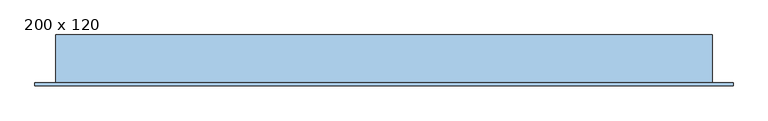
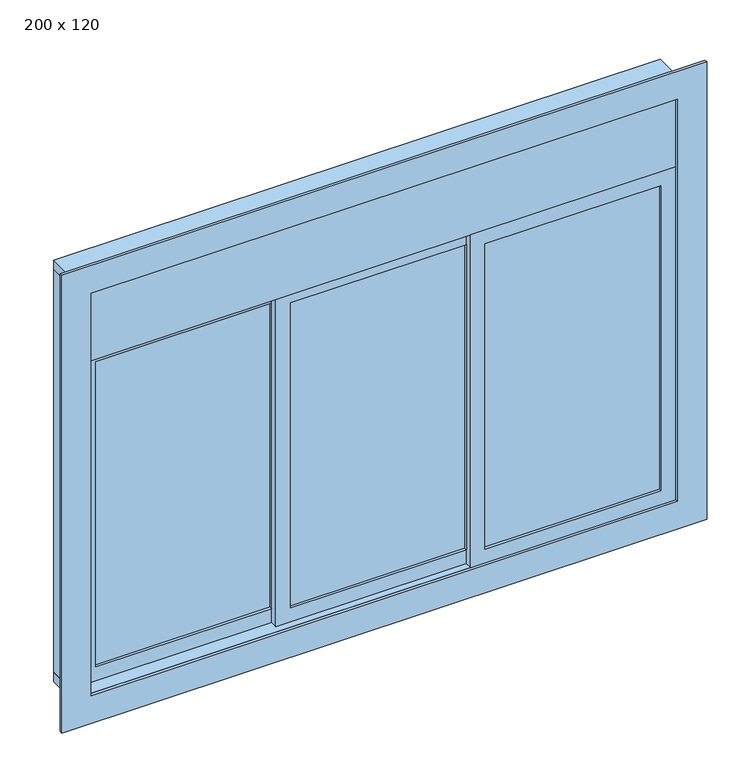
"""IFC4 building model written with IfcOpenShell, lengths in millimetres: window geometry, JANELA COM ESQUADRIA DE CORRER - 3 FOLHAS + PERSIANA INTEGRADA : 200 x 120."""

from ifc_helpers import new_model, si_unit, frame, origin, place, context, project, spatial, polyline, outline, extrude, source, transform, mapped, element, save


def window_200_x_120_acaa8d7a(model_context):
    return source(origin(), model_context, "Body", "SweptSolid", [
        extrude(outline(polyline([(394.4035509, -35.3758395), (394.4035509, -41.3758395), (-205.5964491, -41.3758395), (-205.5964491, -35.3758395), (394.4035509, -35.3758395)])), frame((0.0, 0.0, 1050.0), z_axis=(0.0, 0.0, 1.0), x_axis=(1.0, 0.0, 0.0)), (0.0, 0.0, 1.0), 1100.0),
        extrude(outline(polyline([(2200.0, 444.4035509), (2200.0, -255.5964491), (1000.0, -255.5964491), (1000.0, 444.4035509), (2200.0, 444.4035509)]), holes=[polyline([(2150.0, 394.4035509), (1050.0, 394.4035509), (1050.0, -205.5964491), (2150.0, -205.5964491), (2150.0, 394.4035509)])]), frame((0.0, -50.8758395, 0.0), z_axis=(0.0, 1.0, 0.0), x_axis=(0.0, 0.0, 1.0)), (0.0, 0.0, 1.0), 25.0),
        extrude(outline(polyline([(-855.5964491, -10.3758395), (-255.5964491, -10.3758395), (-255.5964491, -16.3758395), (-855.5964491, -16.3758395), (-855.5964491, -10.3758395)])), frame((0.0, 0.0, 1050.0), z_axis=(0.0, 0.0, 1.0), x_axis=(1.0, 0.0, 0.0)), (0.0, 0.0, 1.0), 1100.0),
        extrude(outline(polyline([(2200.0, -905.5964491), (1000.0, -905.5964491), (1000.0, -205.5964491), (2200.0, -205.5964491), (2200.0, -905.5964491)]), holes=[polyline([(2150.0, -855.5964491), (2150.0, -255.5964491), (1050.0, -255.5964491), (1050.0, -855.5964491), (2150.0, -855.5964491)])]), frame((0.0, -25.8758395, 0.0), z_axis=(0.0, 1.0, 0.0), x_axis=(0.0, 0.0, 1.0)), (0.0, 0.0, 1.0), 25.0),
        extrude(outline(polyline([(1044.4035509, -60.3758395), (1044.4035509, -66.3758395), (444.4035509, -66.3758395), (444.4035509, -60.3758395), (1044.4035509, -60.3758395)])), frame((0.0, 0.0, 1050.0), z_axis=(0.0, 0.0, 1.0), x_axis=(1.0, 0.0, 0.0)), (0.0, 0.0, 1.0), 1100.0),
        extrude(outline(polyline([(2200.0, 1094.4035509), (2200.0, 394.4035509), (1000.0, 394.4035509), (1000.0, 1094.4035509), (2200.0, 1094.4035509)]), holes=[polyline([(2150.0, 1044.4035509), (1050.0, 1044.4035509), (1050.0, 444.4035509), (2150.0, 444.4035509), (2150.0, 1044.4035509)])]), frame((0.0, -75.8758395, 0.0), z_axis=(0.0, 1.0, 0.0), x_axis=(0.0, 0.0, 1.0)), (0.0, 0.0, 1.0), 25.0),
        extrude(outline(polyline([(900.0, -1005.5964491), (900.0, 1194.4035509), (2550.0, 1194.4035509), (2550.0, -1005.5964491), (900.0, -1005.5964491)]), holes=[polyline([(2450.0, -905.5964491), (2450.0, 1094.4035509), (1000.0, 1094.4035509), (1000.0, -905.5964491), (2450.0, -905.5964491)])]), frame((0.0, -85.8758395, 0.0), z_axis=(0.0, 1.0, 0.0), x_axis=(0.0, 0.0, 1.0)), (0.0, 0.0, 1.0), 10.0),
        extrude(outline(polyline([(-940.5964491, 74.1241605), (-905.5964491, 74.1241605), (-905.5964491, -75.8758395), (-940.5964491, -75.8758395), (-940.5964491, 74.1241605)])), frame((0.0, 0.0, 1000.0), z_axis=(0.0, 0.0, 1.0), x_axis=(1.0, 0.0, 0.0)), (0.0, 0.0, 1.0), 1450.0),
        extrude(outline(polyline([(1094.4035509, 74.1241605), (1129.4035509, 74.1241605), (1129.4035509, -75.8758395), (1094.4035509, -75.8758395), (1094.4035509, 74.1241605)])), frame((0.0, 0.0, 1000.0), z_axis=(0.0, 0.0, 1.0), x_axis=(1.0, 0.0, 0.0)), (0.0, 0.0, 1.0), 1450.0),
        extrude(outline(polyline([(-940.5964491, 74.1241605), (1129.4035509, 74.1241605), (1129.4035509, -75.8758395), (-940.5964491, -75.8758395), (-940.5964491, 74.1241605)])), frame((0.0, 0.0, 965.0), z_axis=(0.0, 0.0, 1.0), x_axis=(1.0, 0.0, 0.0)), (0.0, 0.0, 1.0), 35.0),
        extrude(outline(polyline([(1094.4035509, 53.1241605), (1094.4035509, 45.1241605), (-905.5964491, 45.1241605), (-905.5964491, 53.1241605), (1094.4035509, 53.1241605)])), frame((0.0, 0.0, 2330.0), z_axis=(0.0, 0.0, 1.0), x_axis=(1.0, 0.0, 0.0)), (0.0, 0.0, 1.0), 120.0),
        extrude(outline(polyline([(1094.4035509, 69.1241605), (1094.4035509, 64.1241605), (-905.5964491, 64.1241605), (-905.5964491, 69.1241605), (1094.4035509, 69.1241605)])), frame((0.0, 0.0, 2200.0), z_axis=(0.0, 0.0, 1.0), x_axis=(1.0, 0.0, 0.0)), (0.0, 0.0, 1.0), 250.0),
        extrude(outline(polyline([(-75.8758395, 2200.0), (-75.8758395, 2450.0), (-70.8758395, 2450.0), (-70.8758395, 2205.0), (34.1241605, 2205.0), (34.1241605, 2200.0), (-75.8758395, 2200.0)])), frame((-905.5964491, 0.0, 0.0), z_axis=(1.0, 0.0, 0.0), x_axis=(0.0, 1.0, 0.0)), (0.0, 0.0, 1.0), 2000.0),
        extrude(outline(polyline([(-940.5964491, 74.1241605), (1129.4035509, 74.1241605), (1129.4035509, -75.8758395), (-940.5964491, -75.8758395), (-940.5964491, 74.1241605)])), frame((0.0, 0.0, 2450.0), z_axis=(0.0, 0.0, 1.0), x_axis=(1.0, 0.0, 0.0)), (0.0, 0.0, 1.0), 35.0),
        extrude(outline(polyline([(-865.5964491, 64.1241605), (-865.5964491, 59.1241605), (-905.5964491, 59.1241605), (-905.5964491, 64.1241605), (-865.5964491, 64.1241605)])), frame((0.0, 0.0, 1000.0), z_axis=(0.0, 0.0, 1.0), x_axis=(1.0, 0.0, 0.0)), (0.0, 0.0, 1.0), 1450.0),
        extrude(outline(polyline([(-905.5964491, 39.1241605), (-865.5964491, 39.1241605), (-865.5964491, 34.1241605), (-905.5964491, 34.1241605), (-905.5964491, 39.1241605)])), frame((0.0, 0.0, 1000.0), z_axis=(0.0, 0.0, 1.0), x_axis=(1.0, 0.0, 0.0)), (0.0, 0.0, 1.0), 1450.0),
        extrude(outline(polyline([(1054.4035509, 64.1241605), (1094.4035509, 64.1241605), (1094.4035509, 59.1241605), (1054.4035509, 59.1241605), (1054.4035509, 64.1241605)])), frame((0.0, 0.0, 1000.0), z_axis=(0.0, 0.0, 1.0), x_axis=(1.0, 0.0, 0.0)), (0.0, 0.0, 1.0), 1450.0),
        extrude(outline(polyline([(1094.4035509, 39.1241605), (1094.4035509, 34.1241605), (1054.4035509, 34.1241605), (1054.4035509, 39.1241605), (1094.4035509, 39.1241605)])), frame((0.0, 0.0, 1000.0), z_axis=(0.0, 0.0, 1.0), x_axis=(1.0, 0.0, 0.0)), (0.0, 0.0, 1.0), 1450.0),
    ])


if __name__ == "__main__":
    model = new_model("IFC4")
    model_context = context("Model", 3, world=origin())
    ifc_project = project(units=[si_unit("LENGTHUNIT", "METRE", prefix="MILLI")], contexts=[model_context])
    site = spatial("IfcSite", under=ifc_project)
    building = spatial("IfcBuilding", under=site)
    placement = place(None, origin())
    window_200_x_120_shape = window_200_x_120_acaa8d7a(model_context)
    element("IfcWindow", 1, ObjectType="JANELA COM ESQUADRIA DE CORRER - 3 FOLHAS + PERSIANA INTEGRADA : 200 x 120", at=placement, inside=building, context=model_context, shape_type="MappedRepresentation", body=[
        mapped(window_200_x_120_shape, transform((0.0, 0.0, 0.0), x_axis=(1.0, 0.0, 0.0), y_axis=(0.0, 1.0, 0.0), z_axis=(0.0, 0.0, 1.0))),
    ])
    save(model, "model.ifc")
